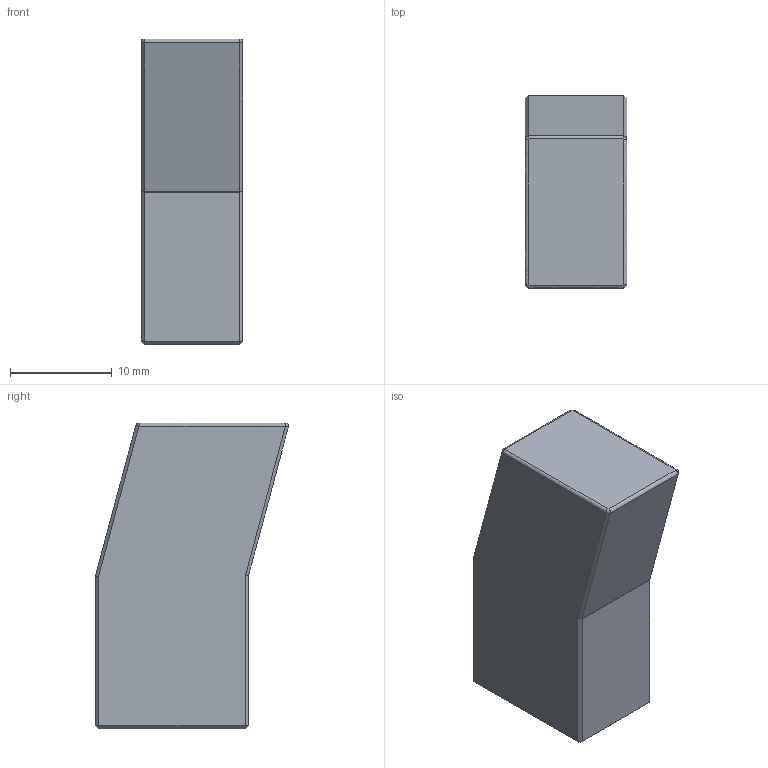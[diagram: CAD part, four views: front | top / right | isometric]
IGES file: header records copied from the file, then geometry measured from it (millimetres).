
Global section: file name: E:\UnigraphicsGraphicData\MISUMI_MOLD-PARTS\NX\3d_ance15_b10_l30_k15_00922_r00.igs; native system: NX V5.0; preprocessor: UGS NX IGES V5.0; author: MISUMI; date: 20101115.182446; units: millimetre
Bounding box: 10 x 18.93 x 30 mm (x, y, z)
Surface area: 2200.8 mm2 (no closed solid volume)
Topology: 0 solids, 0 shells, 37 faces, 207 edges, 206 vertices
Faces by surface type: bspline 37
